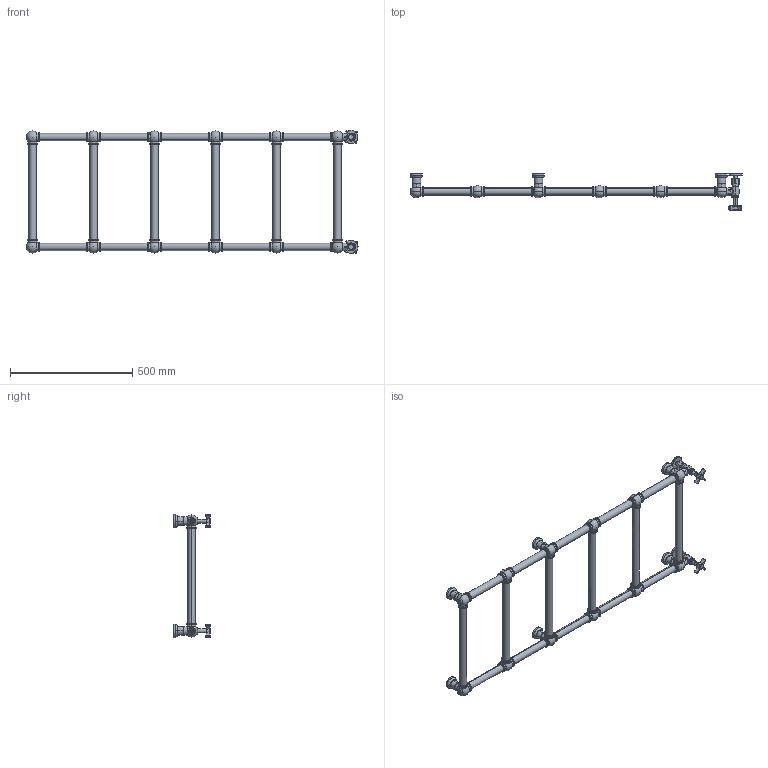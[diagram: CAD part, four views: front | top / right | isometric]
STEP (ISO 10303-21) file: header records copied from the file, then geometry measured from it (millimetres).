
FILE_DESCRIPTION (( 'STEP AP203' ), '1' );
FILE_NAME ('CAE06500.STEP', '2026-03-03T15:20:19', ( '' ), ( '' ), 'SwSTEP 2.0', 'SolidWorks 2025', '' );
FILE_SCHEMA (( 'CONFIG_CONTROL_DESIGN' ));
Length unit declared in the file: millimetre
Products named in the file (10): CAE06500; SFERA-FIX - SX; SFERA; VALVOLA CAESAR; kit; TUBO-H_500; SFERA-FIX - INTERMEDIA; TUBO-V; SFERA-FIX - DX; VITE
Assembly tree (36 placements, depth 2):
  CAE06500
    TUBO-H_500  x6
    SFERA-FIX - SX  x2
    SFERA-FIX - DX  x2
    TUBO-V  x10
    SFERA  x8
    VITE  x2
    SFERA-FIX - INTERMEDIA  x2
    VALVOLA CAESAR  x2
    kit  x2
Bounding box: 1360.5 x 149 x 504.96 mm (x, y, z)
Volume: 1620429.8 mm3; surface area: 1317387.1 mm2
Topology: 38 solids, 38 shells, 1230 faces, 2856 edges, 1730 vertices
Faces by surface type: cylinder 490, torus 288, plane 228, bspline 116, sphere 80, cone 28
Entity records: 17333 total; most frequent: CARTESIAN_POINT 6179, DIRECTION 2011, ORIENTED_EDGE 1968, EDGE_CURVE 984, AXIS2_PLACEMENT_3D 890, VERTEX_POINT 600, EDGE_LOOP 476, CIRCLE 471
